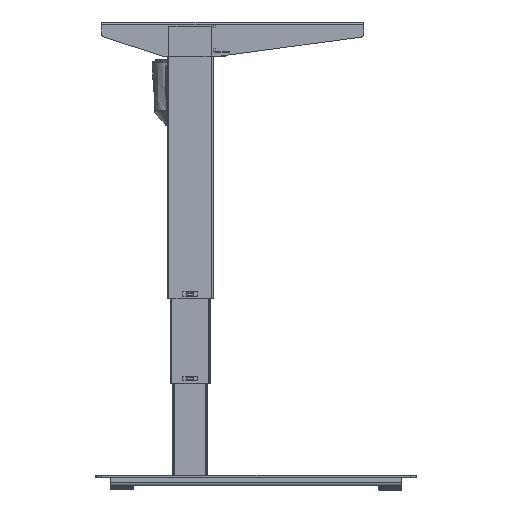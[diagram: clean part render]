
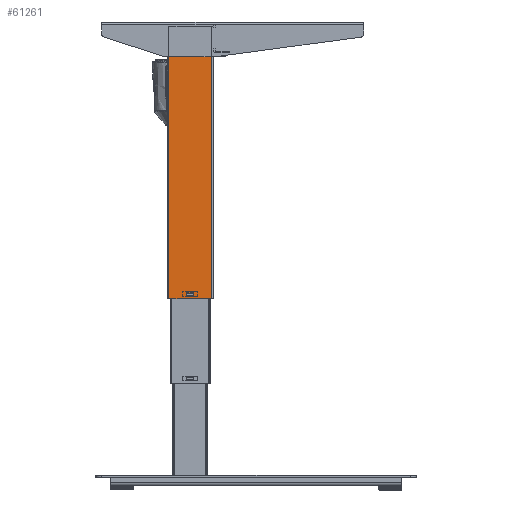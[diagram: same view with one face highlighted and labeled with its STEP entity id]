
A CAD part, left-side view. The second image highlights one B-rep face of the part: STEP entity #61261.
In plain terms, the highlighted planar face has unit normal (-1, 0, 0).
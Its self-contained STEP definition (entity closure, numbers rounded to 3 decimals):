
#2766 = VERTEX_POINT ( 'NONE', #5525 ) ;
#4712 = CARTESIAN_POINT ( 'NONE',  ( -30., -37., 0. ) ) ;
#4765 = LINE ( 'NONE', #18742, #26945 ) ;
#5525 = CARTESIAN_POINT ( 'NONE',  ( -30., 37., 0. ) ) ;
#6503 = CARTESIAN_POINT ( 'NONE',  ( -30., 6., 10. ) ) ;
#6543 = VECTOR ( 'NONE', #12877, 1000. ) ;
#6925 = LINE ( 'NONE', #15260, #36012 ) ;
#7006 = LINE ( 'NONE', #6503, #27414 ) ;
#8180 = DIRECTION ( 'NONE',  ( 0., 0., -1. ) ) ;
#9443 = ORIENTED_EDGE ( 'NONE', *, *, #11135, .T. ) ;
#10157 = VERTEX_POINT ( 'NONE', #65848 ) ;
#11135 = EDGE_CURVE ( 'NONE', #10157, #37634, #7006, .T. ) ;
#11380 = EDGE_CURVE ( 'NONE', #38451, #13825, #4765, .T. ) ;
#12124 = EDGE_LOOP ( 'NONE', ( #16196, #9443, #12350, #38829 ) ) ;
#12350 = ORIENTED_EDGE ( 'NONE', *, *, #64899, .T. ) ;
#12877 = DIRECTION ( 'NONE',  ( 0., 0., 1. ) ) ;
#13825 = VERTEX_POINT ( 'NONE', #20053 ) ;
#14585 = CARTESIAN_POINT ( 'NONE',  ( -30., -6., 10. ) ) ;
#15260 = CARTESIAN_POINT ( 'NONE',  ( -30., -6., 10. ) ) ;
#16196 = ORIENTED_EDGE ( 'NONE', *, *, #61785, .T. ) ;
#16768 = ORIENTED_EDGE ( 'NONE', *, *, #52329, .T. ) ;
#16831 = EDGE_CURVE ( 'NONE', #42625, #17096, #52270, .T. ) ;
#17096 = VERTEX_POINT ( 'NONE', #4712 ) ;
#17197 = LINE ( 'NONE', #44704, #23190 ) ;
#17657 = CARTESIAN_POINT ( 'NONE',  ( -30., 37., 0. ) ) ;
#17871 = DIRECTION ( 'NONE',  ( 0., -1., 0. ) ) ;
#18526 = LINE ( 'NONE', #61969, #6543 ) ;
#18742 = CARTESIAN_POINT ( 'NONE',  ( -30., 6., 6. ) ) ;
#20053 = CARTESIAN_POINT ( 'NONE',  ( -30., 6., 6. ) ) ;
#22062 = EDGE_LOOP ( 'NONE', ( #51333, #16768, #67870, #62031 ) ) ;
#23190 = VECTOR ( 'NONE', #27902, 1000. ) ;
#23980 = CARTESIAN_POINT ( 'NONE',  ( -30., -6., 6. ) ) ;
#24045 = DIRECTION ( 'NONE',  ( 0., 0., -1. ) ) ;
#24528 = CARTESIAN_POINT ( 'NONE',  ( -30., -37., 480. ) ) ;
#24864 = CARTESIAN_POINT ( 'NONE',  ( -30., 37., 480. ) ) ;
#24928 = VECTOR ( 'NONE', #17871, 1000. ) ;
#25703 = VECTOR ( 'NONE', #8180, 1000. ) ;
#26471 = PLANE ( 'NONE',  #64243 ) ;
#26945 = VECTOR ( 'NONE', #40555, 1000. ) ;
#27414 = VECTOR ( 'NONE', #60835, 1000. ) ;
#27902 = DIRECTION ( 'NONE',  ( 0., 1., 0. ) ) ;
#28956 = VERTEX_POINT ( 'NONE', #46418 ) ;
#30857 = LINE ( 'NONE', #24864, #25703 ) ;
#32247 = CARTESIAN_POINT ( 'NONE',  ( -30., 37., 480. ) ) ;
#35683 = FACE_OUTER_BOUND ( 'NONE', #22062, .T. ) ;
#36012 = VECTOR ( 'NONE', #59593, 1000. ) ;
#37634 = VERTEX_POINT ( 'NONE', #14585 ) ;
#37713 = VECTOR ( 'NONE', #24045, 1000. ) ;
#38451 = VERTEX_POINT ( 'NONE', #23980 ) ;
#38829 = ORIENTED_EDGE ( 'NONE', *, *, #11380, .T. ) ;
#40555 = DIRECTION ( 'NONE',  ( 0., 1., 0. ) ) ;
#42597 = EDGE_CURVE ( 'NONE', #28956, #2766, #30857, .T. ) ;
#42625 = VERTEX_POINT ( 'NONE', #51978 ) ;
#44704 = CARTESIAN_POINT ( 'NONE',  ( -30., -40., 475. ) ) ;
#46418 = CARTESIAN_POINT ( 'NONE',  ( -30., 37., 475. ) ) ;
#51333 = ORIENTED_EDGE ( 'NONE', *, *, #16831, .F. ) ;
#51978 = CARTESIAN_POINT ( 'NONE',  ( -30., -37., 475. ) ) ;
#52270 = LINE ( 'NONE', #24528, #37713 ) ;
#52329 = EDGE_CURVE ( 'NONE', #42625, #28956, #17197, .T. ) ;
#59593 = DIRECTION ( 'NONE',  ( 0., 0., -1. ) ) ;
#60107 = LINE ( 'NONE', #17657, #24928 ) ;
#60835 = DIRECTION ( 'NONE',  ( 0., -1., 0. ) ) ;
#61261 = ADVANCED_FACE ( 'NONE', ( #70816, #35683 ), #26471, .F. ) ;
#61785 = EDGE_CURVE ( 'NONE', #13825, #10157, #18526, .T. ) ;
#61969 = CARTESIAN_POINT ( 'NONE',  ( -30., 6., 10. ) ) ;
#62031 = ORIENTED_EDGE ( 'NONE', *, *, #69642, .T. ) ;
#64243 = AXIS2_PLACEMENT_3D ( 'NONE', #32247, #64827, #70325 ) ;
#64827 = DIRECTION ( 'NONE',  ( 1., 0., 0. ) ) ;
#64899 = EDGE_CURVE ( 'NONE', #37634, #38451, #6925, .T. ) ;
#65848 = CARTESIAN_POINT ( 'NONE',  ( -30., 6., 10. ) ) ;
#67870 = ORIENTED_EDGE ( 'NONE', *, *, #42597, .T. ) ;
#69642 = EDGE_CURVE ( 'NONE', #2766, #17096, #60107, .T. ) ;
#70325 = DIRECTION ( 'NONE',  ( 0., 1., 0. ) ) ;
#70816 = FACE_BOUND ( 'NONE', #12124, .T. ) ;
